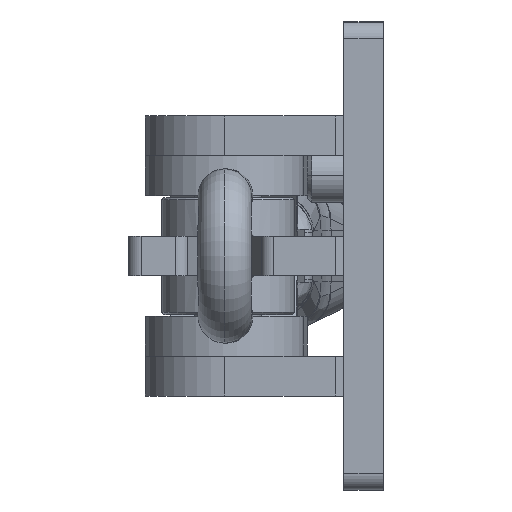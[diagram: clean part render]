
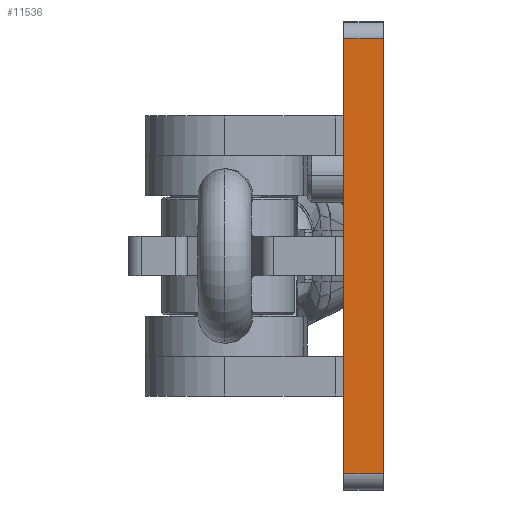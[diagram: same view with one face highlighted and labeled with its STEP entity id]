
A CAD part, left-side view. The second image highlights one B-rep face of the part: STEP entity #11536.
In plain terms, the highlighted planar face has unit normal (-1, 0, 0) as drawn and (0, 0, 1) by its records, which use the part's own axes.
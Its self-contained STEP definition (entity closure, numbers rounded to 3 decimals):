
#1699 = CARTESIAN_POINT ( 'NONE',  ( 52., 9.525, 31.75 ) ) ;
#2005 = VECTOR ( 'NONE', #21893, 1000. ) ;
#2174 = LINE ( 'NONE', #23174, #21553 ) ;
#2497 = EDGE_LOOP ( 'NONE', ( #17708, #12526, #18560, #16904 ) ) ;
#3115 = CARTESIAN_POINT ( 'NONE',  ( -52., 9.525, 31.75 ) ) ;
#3218 = EDGE_CURVE ( 'NONE', #24110, #14468, #10438, .T. ) ;
#3405 = EDGE_CURVE ( 'NONE', #14468, #3664, #8686, .T. ) ;
#3567 = CARTESIAN_POINT ( 'NONE',  ( -52., 9.525, 31.75 ) ) ;
#3664 = VERTEX_POINT ( 'NONE', #16478 ) ;
#4606 = EDGE_CURVE ( 'NONE', #24110, #5840, #2174, .T. ) ;
#4728 = CARTESIAN_POINT ( 'NONE',  ( -52., 9.525, 31.75 ) ) ;
#5840 = VERTEX_POINT ( 'NONE', #1699 ) ;
#6597 = DIRECTION ( 'NONE',  ( -1., 0., 0. ) ) ;
#6990 = LINE ( 'NONE', #8755, #2005 ) ;
#8686 = LINE ( 'NONE', #21260, #13074 ) ;
#8755 = CARTESIAN_POINT ( 'NONE',  ( 52., 9.525, 31.75 ) ) ;
#9140 = DIRECTION ( 'NONE',  ( 0., -1., 0. ) ) ;
#10438 = LINE ( 'NONE', #3567, #20421 ) ;
#11536 = ADVANCED_FACE ( 'NONE', ( #12410 ), #12183, .F. ) ;
#12183 = PLANE ( 'NONE',  #16588 ) ;
#12410 = FACE_OUTER_BOUND ( 'NONE', #2497, .T. ) ;
#12526 = ORIENTED_EDGE ( 'NONE', *, *, #24096, .F. ) ;
#13074 = VECTOR ( 'NONE', #15686, 1000. ) ;
#14468 = VERTEX_POINT ( 'NONE', #18079 ) ;
#15686 = DIRECTION ( 'NONE',  ( 1., 0., 0. ) ) ;
#16478 = CARTESIAN_POINT ( 'NONE',  ( 52., 0., 31.75 ) ) ;
#16588 = AXIS2_PLACEMENT_3D ( 'NONE', #4728, #17843, #6597 ) ;
#16904 = ORIENTED_EDGE ( 'NONE', *, *, #3218, .T. ) ;
#17708 = ORIENTED_EDGE ( 'NONE', *, *, #3405, .T. ) ;
#17843 = DIRECTION ( 'NONE',  ( 0., 0., -1. ) ) ;
#18079 = CARTESIAN_POINT ( 'NONE',  ( -52., 0., 31.75 ) ) ;
#18560 = ORIENTED_EDGE ( 'NONE', *, *, #4606, .F. ) ;
#20421 = VECTOR ( 'NONE', #9140, 1000. ) ;
#21260 = CARTESIAN_POINT ( 'NONE',  ( -52., 0., 31.75 ) ) ;
#21301 = DIRECTION ( 'NONE',  ( 1., 0., 0. ) ) ;
#21553 = VECTOR ( 'NONE', #21301, 1000. ) ;
#21893 = DIRECTION ( 'NONE',  ( 0., -1., 0. ) ) ;
#23174 = CARTESIAN_POINT ( 'NONE',  ( -52., 9.525, 31.75 ) ) ;
#24096 = EDGE_CURVE ( 'NONE', #5840, #3664, #6990, .T. ) ;
#24110 = VERTEX_POINT ( 'NONE', #3115 ) ;
